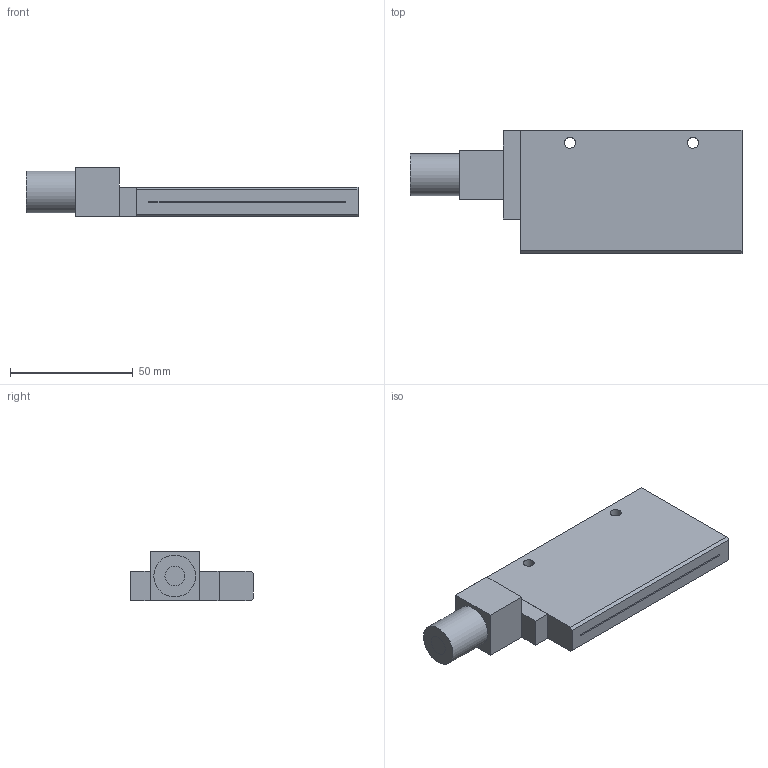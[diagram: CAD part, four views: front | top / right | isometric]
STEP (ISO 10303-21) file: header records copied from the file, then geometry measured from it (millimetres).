
FILE_DESCRIPTION(/* description */ (''),/* implementation_level */ '2;1');
FILE_NAME(/* name */ '',/* time_stamp */ '2023-02-24T17:43:13+09:00',/* author */ (''),/* organization */ (''),/* preprocessor_version */ 'ST-DEVELOPER v19.2',/* originating_system */ 'Autodesk Translation Framework v11.17.0.187',/* authorisation */ '');
FILE_SCHEMA (('AUTOMOTIVE_DESIGN { 1 0 10303 214 3 1 1 }'));
Length unit declared in the file: millimetre
Products named in the file (1): LR-R80×0.6 照射部
Bounding box: 135 x 50 x 20 mm (x, y, z)
Volume: 68291.9 mm3; surface area: 19406.2 mm2
Topology: 5 solids, 5 shells, 41 faces, 85 edges, 56 vertices
Faces by surface type: plane 36, cylinder 5
Full cylindrical faces by diameter (mm): 4.5 x2, 8 x2, 17 x1
Entity records: 1110 total; most frequent: CARTESIAN_POINT 183, DIRECTION 179, ORIENTED_EDGE 170, EDGE_CURVE 85, LINE 75, VECTOR 75, VERTEX_POINT 56, AXIS2_PLACEMENT_3D 52
